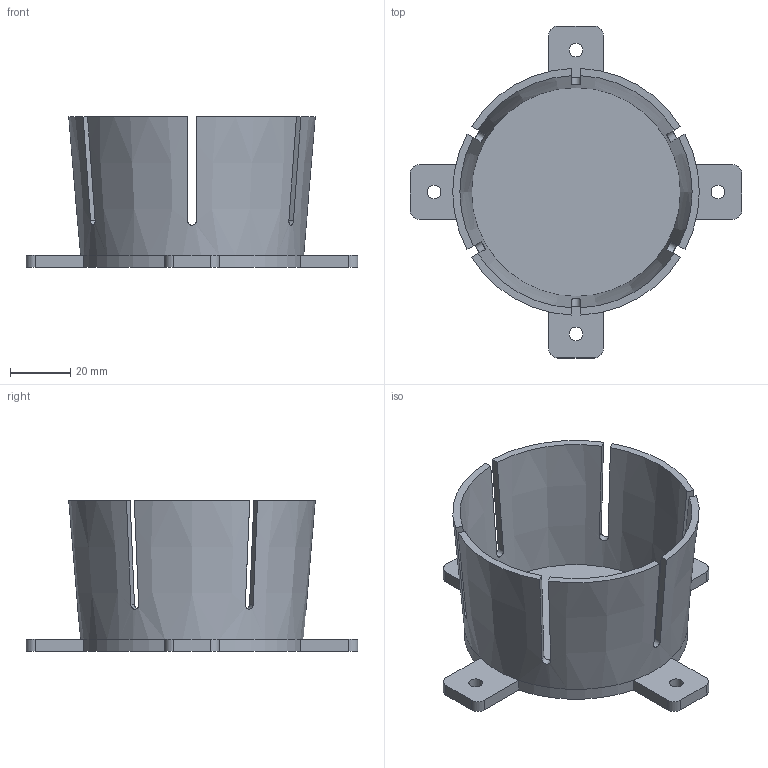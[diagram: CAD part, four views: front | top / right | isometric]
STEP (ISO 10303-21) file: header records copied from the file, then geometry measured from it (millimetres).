
FILE_DESCRIPTION(('Open CASCADE Model'),'2;1');
FILE_NAME('Open CASCADE Shape Model','2026-10-11T08:16:51',('Author'),( 'Open CASCADE'),'Open CASCADE STEP processor 7.9','Open CASCADE 7.9' ,'Unknown');
FILE_SCHEMA(('AUTOMOTIVE_DESIGN { 1 0 10303 214 1 1 1 1 }'));
Length unit declared in the file: millimetre
Products named in the file (1): Open CASCADE STEP translator 7.9 1
Bounding box: 110 x 110 x 50 mm (x, y, z)
Volume: 46809.9 mm3; surface area: 34489.2 mm2
Topology: 1 solids, 1 shells, 60 faces, 166 edges, 108 vertices
Faces by surface type: plane 36, cylinder 22, cone 2
Full cylindrical faces by diameter (mm): 4.5 x4
Entity records: 6276 total; most frequent: CARTESIAN_POINT 3134, DIRECTION 554, ORIENTED_EDGE 332, PCURVE 332, DEFINITIONAL_REPRESENTATION 332, LINE 241, VECTOR 241, EDGE_CURVE 166
